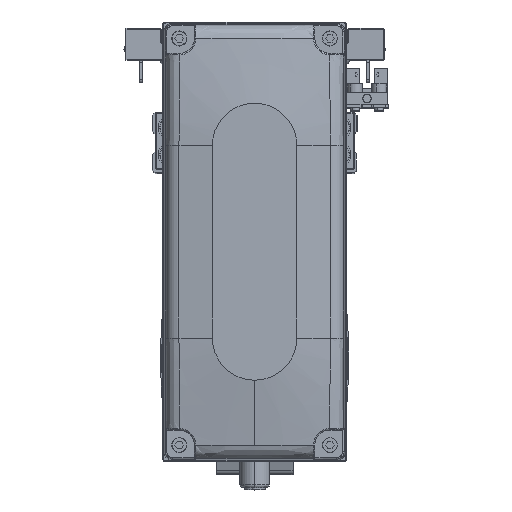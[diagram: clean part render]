
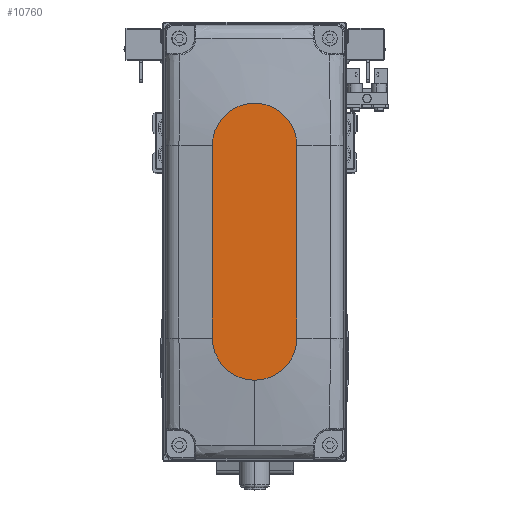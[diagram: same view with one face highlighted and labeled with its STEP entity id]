
A CAD part, top view. The second image highlights one B-rep face of the part: STEP entity #10760.
In plain terms, the highlighted planar face has unit normal (0, 0, 1).
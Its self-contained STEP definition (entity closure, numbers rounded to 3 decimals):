
#1954 = CARTESIAN_POINT ( 'NONE',  ( -32., -14., 35. ) ) ;
#2018 = DIRECTION ( 'NONE',  ( 1., 0., 0. ) ) ;
#3154 = DIRECTION ( 'NONE',  ( -1., 0., 0. ) ) ;
#3860 = ORIENTED_EDGE ( 'NONE', *, *, #34068, .T. ) ;
#3901 = EDGE_CURVE ( 'NONE', #21583, #27918, #7230, .T. ) ;
#5695 = AXIS2_PLACEMENT_3D ( 'NONE', #10914, #24219, #37547 ) ;
#6151 = CARTESIAN_POINT ( 'NONE',  ( 32., 0., 35. ) ) ;
#7230 = LINE ( 'NONE', #20560, #14048 ) ;
#7684 = DIRECTION ( 'NONE',  ( 0., 0., 1. ) ) ;
#8388 = EDGE_CURVE ( 'NONE', #31118, #29322, #19810, .T. ) ;
#9934 = ORIENTED_EDGE ( 'NONE', *, *, #34374, .T. ) ;
#10760 = ADVANCED_FACE ( 'NONE', ( #27503 ), #40840, .T. ) ;
#10914 = CARTESIAN_POINT ( 'NONE',  ( 0., 0., 35. ) ) ;
#11070 = CARTESIAN_POINT ( 'NONE',  ( 32., -14., 35. ) ) ;
#12089 = AXIS2_PLACEMENT_3D ( 'NONE', #37599, #7684, #21013 ) ;
#12674 = AXIS2_PLACEMENT_3D ( 'NONE', #6151, #19513, #32823 ) ;
#12986 = CARTESIAN_POINT ( 'NONE',  ( 46., 0., 35. ) ) ;
#13361 = VERTEX_POINT ( 'NONE', #12986 ) ;
#14048 = VECTOR ( 'NONE', #33865, 1000. ) ;
#16347 = AXIS2_PLACEMENT_3D ( 'NONE', #18636, #31956, #2018 ) ;
#18333 = EDGE_LOOP ( 'NONE', ( #38945, #9934, #25570, #36375, #3860 ) ) ;
#18588 = CARTESIAN_POINT ( 'NONE',  ( 32., 14., 35. ) ) ;
#18636 = CARTESIAN_POINT ( 'NONE',  ( 32., 0., 35. ) ) ;
#18813 = VECTOR ( 'NONE', #3154, 1000. ) ;
#19513 = DIRECTION ( 'NONE',  ( 0., 0., 1. ) ) ;
#19810 = LINE ( 'NONE', #33108, #18813 ) ;
#20560 = CARTESIAN_POINT ( 'NONE',  ( -32., -14., 35. ) ) ;
#21013 = DIRECTION ( 'NONE',  ( 1., 0., 0. ) ) ;
#21583 = VERTEX_POINT ( 'NONE', #1954 ) ;
#24219 = DIRECTION ( 'NONE',  ( 0., 0., 1. ) ) ;
#25570 = ORIENTED_EDGE ( 'NONE', *, *, #3901, .T. ) ;
#26940 = CARTESIAN_POINT ( 'NONE',  ( -32., 14., 35. ) ) ;
#27503 = FACE_OUTER_BOUND ( 'NONE', #18333, .T. ) ;
#27918 = VERTEX_POINT ( 'NONE', #11070 ) ;
#29322 = VERTEX_POINT ( 'NONE', #26940 ) ;
#29661 = EDGE_CURVE ( 'NONE', #27918, #13361, #31512, .T. ) ;
#30905 = CIRCLE ( 'NONE', #12089, 14. ) ;
#31118 = VERTEX_POINT ( 'NONE', #18588 ) ;
#31512 = CIRCLE ( 'NONE', #12674, 14. ) ;
#31956 = DIRECTION ( 'NONE',  ( 0., 0., 1. ) ) ;
#32823 = DIRECTION ( 'NONE',  ( 1., 0., 0. ) ) ;
#33108 = CARTESIAN_POINT ( 'NONE',  ( -32., 14., 35. ) ) ;
#33865 = DIRECTION ( 'NONE',  ( 1., 0., 0. ) ) ;
#34068 = EDGE_CURVE ( 'NONE', #13361, #31118, #35176, .T. ) ;
#34374 = EDGE_CURVE ( 'NONE', #29322, #21583, #30905, .T. ) ;
#35176 = CIRCLE ( 'NONE', #16347, 14. ) ;
#36375 = ORIENTED_EDGE ( 'NONE', *, *, #29661, .T. ) ;
#37547 = DIRECTION ( 'NONE',  ( 1., 0., 0. ) ) ;
#37599 = CARTESIAN_POINT ( 'NONE',  ( -32., 0., 35. ) ) ;
#38945 = ORIENTED_EDGE ( 'NONE', *, *, #8388, .T. ) ;
#40840 = PLANE ( 'NONE',  #5695 ) ;
